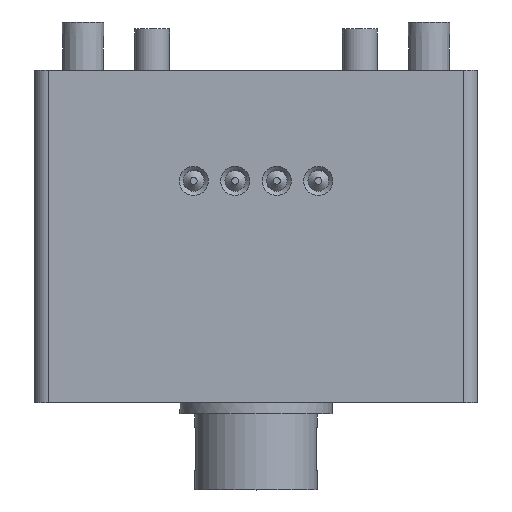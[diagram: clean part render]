
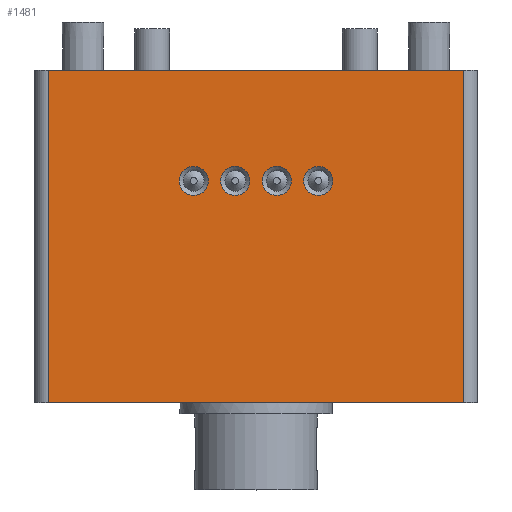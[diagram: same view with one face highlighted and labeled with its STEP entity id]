
A CAD part, top view. The second image highlights one B-rep face of the part: STEP entity #1481.
In plain terms, the highlighted planar face has unit normal (0, 0, 1).
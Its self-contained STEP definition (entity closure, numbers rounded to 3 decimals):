
#1481=ADVANCED_FACE('',(#3389,#3390,#3391,#3392,#3393),#3394,.T.);
#3389=FACE_BOUND('',#5672,.T.);
#3390=FACE_BOUND('',#5673,.T.);
#3391=FACE_BOUND('',#5674,.T.);
#3392=FACE_BOUND('',#5675,.T.);
#3393=FACE_OUTER_BOUND('',#5676,.T.);
#3394=PLANE('',#5677);
#5672=EDGE_LOOP('',(#10637));
#5673=EDGE_LOOP('',(#10638));
#5674=EDGE_LOOP('',(#10639));
#5675=EDGE_LOOP('',(#10640));
#5676=EDGE_LOOP('',(#10641,#10642,#10643,#10644));
#5677=AXIS2_PLACEMENT_3D('',#10645,#10646,#10647);
#10637=ORIENTED_EDGE('',*,*,#12851,.T.);
#10638=ORIENTED_EDGE('',*,*,#12554,.T.);
#10639=ORIENTED_EDGE('',*,*,#12852,.T.);
#10640=ORIENTED_EDGE('',*,*,#12853,.T.);
#10641=ORIENTED_EDGE('',*,*,#11972,.T.);
#10642=ORIENTED_EDGE('',*,*,#12854,.T.);
#10643=ORIENTED_EDGE('',*,*,#12196,.T.);
#10644=ORIENTED_EDGE('',*,*,#12577,.T.);
#10645=CARTESIAN_POINT('',(-16.0,-22.0,9.2));
#10646=DIRECTION('',(0.0,0.0,1.0));
#10647=DIRECTION('',(1.0,0.0,0.0));
#11972=EDGE_CURVE('',#13274,#13275,#13276,.T.);
#12196=EDGE_CURVE('',#13602,#13603,#13604,.T.);
#12554=EDGE_CURVE('',#14118,#14118,#14119,.T.);
#12577=EDGE_CURVE('',#13603,#13274,#14151,.T.);
#12851=EDGE_CURVE('',#14529,#14529,#14530,.T.);
#12852=EDGE_CURVE('',#14531,#14531,#14532,.T.);
#12853=EDGE_CURVE('',#14533,#14533,#14534,.T.);
#12854=EDGE_CURVE('',#13275,#13602,#14535,.T.);
#13274=VERTEX_POINT('',#15093);
#13275=VERTEX_POINT('',#15094);
#13276=LINE('',#15095,#15096);
#13602=VERTEX_POINT('',#15515);
#13603=VERTEX_POINT('',#15516);
#13604=LINE('',#15517,#15518);
#14118=VERTEX_POINT('',#16260);
#14119=CIRCLE('',#16261,1.05);
#14151=LINE('',#16307,#16308);
#14529=VERTEX_POINT('',#16858);
#14530=CIRCLE('',#16859,1.05);
#14531=VERTEX_POINT('',#16860);
#14532=CIRCLE('',#16861,1.05);
#14533=VERTEX_POINT('',#16862);
#14534=CIRCLE('',#16863,1.05);
#14535=LINE('',#16864,#16865);
#15093=CARTESIAN_POINT('',(15.0,-24.0,9.2));
#15094=CARTESIAN_POINT('',(15.0,0.0,9.2));
#15095=CARTESIAN_POINT('',(15.0,-5.,9.2));
#15096=VECTOR('',#17252,1.0);
#15515=CARTESIAN_POINT('',(-15.0,0.0,9.2));
#15516=CARTESIAN_POINT('',(-15.0,-24.0,9.2));
#15517=CARTESIAN_POINT('',(-15.0,-22.0,9.2));
#15518=VECTOR('',#17430,1.0);
#16260=CARTESIAN_POINT('',(2.55,-8.0,9.2));
#16261=AXIS2_PLACEMENT_3D('',#17752,#17753,#17754);
#16307=CARTESIAN_POINT('',(-16.0,-24.0,9.2));
#16308=VECTOR('',#17778,1.0);
#16858=CARTESIAN_POINT('',(5.55,-8.0,9.2));
#16859=AXIS2_PLACEMENT_3D('',#18017,#18018,#18019);
#16860=CARTESIAN_POINT('',(-0.45,-8.0,9.2));
#16861=AXIS2_PLACEMENT_3D('',#18020,#18021,#18022);
#16862=CARTESIAN_POINT('',(-3.45,-8.0,9.2));
#16863=AXIS2_PLACEMENT_3D('',#18023,#18024,#18025);
#16864=CARTESIAN_POINT('',(16.0,0.0,9.2));
#16865=VECTOR('',#18026,1.0);
#17252=DIRECTION('',(0.0,1.0,0.0));
#17430=DIRECTION('',(0.0,-1.0,0.0));
#17752=CARTESIAN_POINT('',(1.5,-8.0,9.2));
#17753=DIRECTION('',(0.0,0.0,-1.0));
#17754=DIRECTION('',(1.0,0.0,0.0));
#17778=DIRECTION('',(1.0,0.0,0.0));
#18017=CARTESIAN_POINT('',(4.5,-8.0,9.2));
#18018=DIRECTION('',(0.0,0.0,-1.0));
#18019=DIRECTION('',(1.0,0.0,0.0));
#18020=CARTESIAN_POINT('',(-1.5,-8.0,9.2));
#18021=DIRECTION('',(0.0,0.0,-1.0));
#18022=DIRECTION('',(1.0,0.0,0.0));
#18023=CARTESIAN_POINT('',(-4.5,-8.0,9.2));
#18024=DIRECTION('',(0.0,0.0,-1.0));
#18025=DIRECTION('',(1.0,0.0,0.0));
#18026=DIRECTION('',(-1.0,0.0,0.0));
